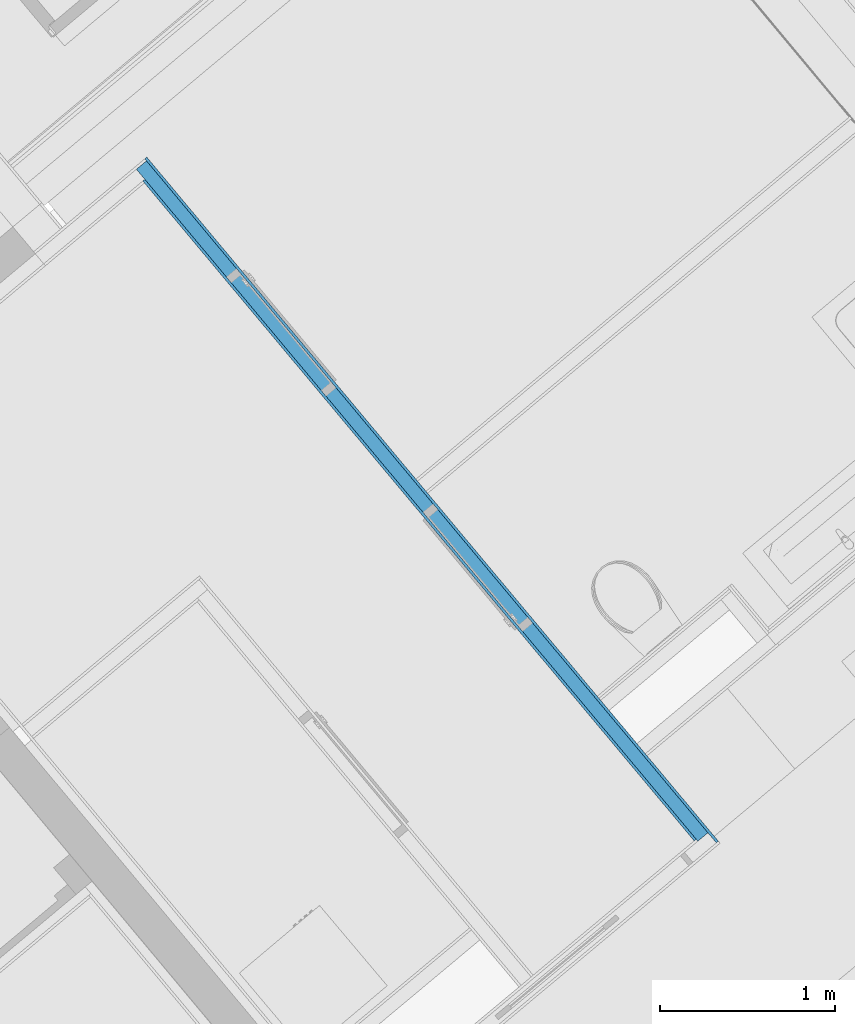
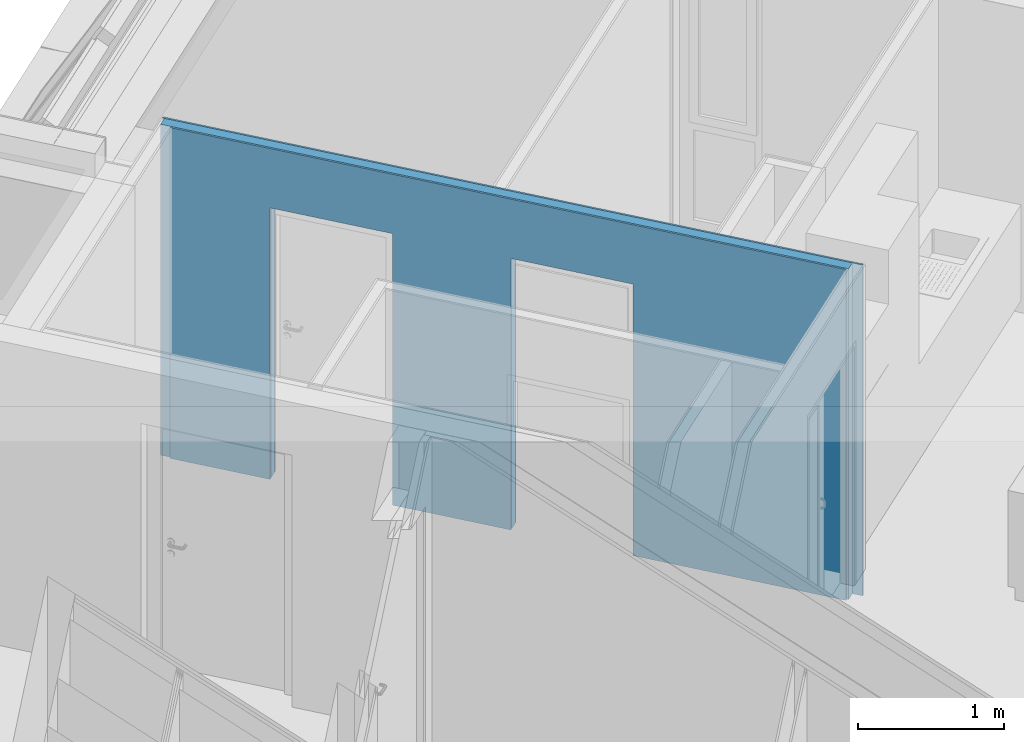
# One storey, part 14 of 61: 3 building element parts, 2 openings, 1 element without a shape of its own.
"""IFC4 building model written with IfcOpenShell, lengths in metres."""

from ifc_helpers import new_model, entity, si_unit, converted_unit, derived_unit, direction, frame, origin_with_axes, place, context, subcontext, project, spatial, polygons, material, type_object, element, aggregate, save


model = new_model("IFC4")

# Units and contexts
model_context = context("Model", 3, precision=1e-05, world=origin_with_axes(), true_north=direction((0.0, 1.0)))
body_context = subcontext(model_context, "Body", "Model", "MODEL_VIEW")
ifc_project = project(units=[si_unit("LENGTHUNIT", "METRE"), si_unit("AREAUNIT", "SQUARE_METRE"), si_unit("VOLUMEUNIT", "CUBIC_METRE"), converted_unit("PLANEANGLEUNIT", "DEGREE", entity("IfcPlaneAngleMeasure", 0.0174532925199), si_unit("PLANEANGLEUNIT", "RADIAN"), dimensions=[0, 0, 0, 0, 0, 0, 0]), converted_unit("TIMEUNIT", "Year", entity("IfcTimeMeasure", 31556926.0), si_unit("TIMEUNIT", "SECOND"), dimensions=[0, 0, 1, 0, 0, 0, 0]), si_unit("MASSUNIT", "GRAM", prefix="KILO"), si_unit("THERMODYNAMICTEMPERATUREUNIT", "DEGREE_CELSIUS"), si_unit("LUMINOUSINTENSITYUNIT", "LUMEN"), si_unit("ENERGYUNIT", "JOULE", prefix="MEGA"), derived_unit("THERMALCONDUCTANCEUNIT", [(si_unit("POWERUNIT", "WATT"), 1), (si_unit("LENGTHUNIT", "METRE"), -1), (si_unit("THERMODYNAMICTEMPERATUREUNIT", "KELVIN"), -1)]), derived_unit("SPECIFICHEATCAPACITYUNIT", [(si_unit("ENERGYUNIT", "JOULE"), 1), (si_unit("MASSUNIT", "GRAM", prefix="KILO"), -1), (si_unit("THERMODYNAMICTEMPERATUREUNIT", "KELVIN"), -1)]), derived_unit("MASSDENSITYUNIT", [(si_unit("MASSUNIT", "GRAM", prefix="KILO"), 1), (si_unit("VOLUMEUNIT", "CUBIC_METRE"), -1)])], contexts=[model_context])

# Site, building, storey
site_placement = place(None, frame((-0.00153261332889, -0.00661245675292, 0.0), z_axis=(0.0, 0.0, 1.0), x_axis=(1.0, 0.0, 0.0)))
site = spatial("IfcSite", under=ifc_project, at=site_placement, Name="Gelände", CompositionType="ELEMENT")
building_placement = place(site_placement, origin_with_axes())
building = spatial("IfcBuilding", under=site, at=building_placement, Name="Gebäude", CompositionType="ELEMENT")
storey_placement = place(building_placement, frame((0.0, 0.0, 5.7), z_axis=(0.0, 0.0, 1.0), x_axis=(1.0, 0.0, 0.0)))
storey = spatial("IfcBuildingStorey", under=building, at=storey_placement, Name="DG1", CompositionType="ELEMENT", Elevation=5.7)

# Wall, openings, building element parts
wall_type = type_object("IfcWallType", Name="IW LB 01 Leichtbautrennwand einfach 10,5 cm 105", PredefinedType="NOTDEFINED")
wall_placement = place(storey_placement, frame((6.82661068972, 22.4478297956, 0.0), z_axis=(0.0, 0.0, 1.0), x_axis=(-0.641209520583, 0.767365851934, 0.0)))
wall = element("IfcWall", 1, at=wall_placement, inside=storey, type_object=wall_type, Name="Wand-012", PredefinedType="NOTDEFINED")
opening_1_placement = place(wall_placement, frame((2.09706783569, 0.0, 0.22), z_axis=(0.0, 0.0, 1.0), x_axis=(1.0, 0.0, 0.0)))
element("IfcOpeningElement", 2, at=opening_1_placement, cuts=wall, Name="Tür-014", context=body_context, identifier="Reference", shape_type="Tessellation", body=[
    polygons([(-0.445, -2.51639218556, 2.045), (-0.445, -2.51639218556, -0.22), (0.445, -2.51639218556, -0.22), (0.445, -2.51639218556, 2.045), (-0.445, 2.62139218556, 2.045), (-0.445, 2.62139218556, -0.22), (0.445, 2.62139218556, -0.22), (0.445, 2.62139218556, 2.045)], [[[1, 2, 3, 4]], [[5, 6, 2, 1]], [[6, 7, 3, 2]], [[7, 8, 4, 3]], [[8, 5, 1, 4]], [[7, 6, 5, 8]]], closed=True),
])
opening_2_placement = place(wall_placement, frame((3.85013716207, 0.0, 0.22), z_axis=(0.0, 0.0, 1.0), x_axis=(1.0, 0.0, 0.0)))
element("IfcOpeningElement", 3, at=opening_2_placement, cuts=wall, Name="Tür-016", context=body_context, identifier="Reference", shape_type="Tessellation", body=[
    polygons([(0.445, 2.62139218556, 2.045), (0.445, 2.62139218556, -0.22), (-0.445, 2.62139218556, -0.22), (-0.445, 2.62139218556, 2.045), (0.445, -2.51639218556, 2.045), (0.445, -2.51639218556, -0.22), (-0.445, -2.51639218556, -0.22), (-0.445, -2.51639218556, 2.045)], [[[1, 2, 3, 4]], [[5, 6, 2, 1]], [[6, 7, 3, 2]], [[7, 8, 4, 3]], [[8, 5, 1, 4]], [[7, 6, 5, 8]]], closed=True),
])
ifc_material_1 = material(Name="Gipskarton")
building_element_part_1_placement = place(wall_placement, origin_with_axes())
building_element_part_1 = element("IfcBuildingElementPart", 4, at=building_element_part_1_placement, material=ifc_material_1, Name="Gipskarton", PredefinedType="NOTDEFINED", context=body_context, shape_type="Tessellation", body=[
    polygons([(4.29513716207, 0.09, 2.265), (4.29513716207, 0.09, 0.22), (4.29513712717, 0.09, 0.0), (5.02214477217, 0.09, 0.0), (5.02214477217, 0.09, 2.76), (0.10505658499, 0.09, 2.76), (0.10505658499, 0.09, 0.0), (1.6520678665, 0.09, 0.0), (1.65206783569, 0.09, 0.22), (1.65206783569, 0.09, 2.265), (2.54206783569, 0.09, 2.265), (2.54206783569, 0.09, 0.22), (2.54206783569, 0.09, 0.0), (3.40513716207, 0.09, 0.0), (3.40513716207, 0.09, 0.22), (3.40513716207, 0.09, 2.265), (4.29513716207, 0.105, 2.265), (4.29513716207, 0.105, 0.22), (4.29513712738, 0.105, 0.0), (5.02214451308, 0.105, 0.0), (5.02214451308, 0.105, 2.76), (0.105066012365, 0.105, 2.76), (0.105066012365, 0.105, 0.0), (1.65206786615, 0.105, 0.0), (1.65206783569, 0.105, 0.22), (1.65206783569, 0.105, 2.265), (2.54206783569, 0.105, 2.265), (2.54206783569, 0.105, 0.22), (2.54206783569, 0.105, 0.0), (3.40513716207, 0.105, 0.0), (3.40513716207, 0.105, 0.22), (3.40513716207, 0.105, 2.265)], [[[1, 2, 3, 4, 5, 6, 7, 8, 9, 10, 11, 12, 13, 14, 15, 16]], [[2, 1, 17, 18]], [[2, 18, 19, 3]], [[20, 4, 3, 19]], [[21, 5, 4, 20]], [[22, 6, 5, 21]], [[7, 6, 22, 23]], [[7, 23, 24, 8]], [[9, 8, 24, 25]], [[9, 25, 26, 10]], [[10, 26, 27, 11]], [[11, 27, 28, 12]], [[28, 29, 13, 12]], [[13, 29, 30, 14]], [[31, 15, 14, 30]], [[16, 15, 31, 32]], [[1, 16, 32, 17]], [[32, 31, 30, 29, 28, 27, 26, 25, 24, 23, 22, 21, 20, 19, 18, 17]]], closed=True),
])
ifc_material_2 = material(Name="Mineralwolle weich")
building_element_part_2_placement = place(wall_placement, origin_with_axes())
building_element_part_2 = element("IfcBuildingElementPart", 5, at=building_element_part_2_placement, material=ifc_material_2, Name="Mineralwolle weich", PredefinedType="NOTDEFINED", context=body_context, shape_type="Tessellation", body=[
    polygons([(4.29513716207, 0.015, 2.265), (4.29513716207, 0.015, 0.22), (4.29513712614, 0.015, 0.0), (5.09714606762, 0.015, 0.0), (5.09714606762, 0.015, 2.76), (0.0900094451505, 0.015, 2.76), (0.0900094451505, 0.015, 0.0), (1.65206786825, 0.015, 0.0), (1.65206783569, 0.015, 0.22), (1.65206783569, 0.015, 2.265), (2.54206783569, 0.015, 2.265), (2.54206783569, 0.015, 0.22), (2.54206783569, 0.015, 0.0), (3.40513716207, 0.015, 0.0), (3.40513716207, 0.015, 0.22), (3.40513716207, 0.015, 2.265), (4.29513716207, 0.09, 2.265), (4.29513716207, 0.09, 0.22), (4.29513712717, 0.09, 0.0), (5.09714477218, 0.09, 0.0), (5.09714477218, 0.09, 2.76), (0.0900565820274, 0.09, 2.76), (0.0900565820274, 0.09, 0.0), (1.6520678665, 0.09, 0.0), (1.65206783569, 0.09, 0.22), (1.65206783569, 0.09, 2.265), (2.54206783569, 0.09, 2.265), (2.54206783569, 0.09, 0.22), (2.54206783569, 0.09, 0.0), (3.40513716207, 0.09, 0.0), (3.40513716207, 0.09, 0.22), (3.40513716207, 0.09, 2.265)], [[[1, 2, 3, 4, 5, 6, 7, 8, 9, 10, 11, 12, 13, 14, 15, 16]], [[2, 1, 17, 18]], [[2, 18, 19, 3]], [[20, 4, 3, 19]], [[21, 5, 4, 20]], [[22, 6, 5, 21]], [[7, 6, 22, 23]], [[7, 23, 24, 8]], [[9, 8, 24, 25]], [[9, 25, 26, 10]], [[10, 26, 27, 11]], [[11, 27, 28, 12]], [[28, 29, 13, 12]], [[13, 29, 30, 14]], [[31, 15, 14, 30]], [[16, 15, 31, 32]], [[1, 16, 32, 17]], [[32, 31, 30, 29, 28, 27, 26, 25, 24, 23, 22, 21, 20, 19, 18, 17]]], closed=True),
])
building_element_part_3_placement = place(wall_placement, origin_with_axes())
building_element_part_3 = element("IfcBuildingElementPart", 6, at=building_element_part_3_placement, material=ifc_material_1, Name="Gipskarton", PredefinedType="NOTDEFINED", context=body_context, shape_type="Tessellation", body=[
    polygons([(4.29513716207, 1.80854442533e-10, 2.265), (4.29513716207, -6.83303724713e-09, 0.22), (4.29513712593, -6.83304079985e-09, 0.0), (5.11214632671, 0.0, 0.0), (5.11214632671, 0.0, 2.76), (0.0150000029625, 0.0, 2.76), (0.0150000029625, 0.0, 0.0), (1.6520678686, 6.71234090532e-09, 0.0), (1.65206783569, 6.71234090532e-09, 0.22), (1.65206783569, 1.80857995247e-10, 2.265), (2.54206783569, 1.80857995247e-10, 2.265), (2.54206783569, -3.01550784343e-10, 0.22), (2.54206783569, -3.01550784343e-10, 0.0), (3.40513716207, 1.80857995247e-10, 0.0), (3.40513716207, 1.80857995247e-10, 0.22), (3.40513716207, 1.80857995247e-10, 2.265), (4.29513716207, 0.015, 2.265), (4.29513716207, 0.015, 0.22), (4.29513712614, 0.015, 0.0), (5.11214606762, 0.015, 0.0), (5.11214606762, 0.015, 2.76), (0.0150094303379, 0.015, 2.76), (0.0150094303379, 0.015, 0.0), (1.65206786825, 0.015, 0.0), (1.65206783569, 0.015, 0.22), (1.65206783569, 0.015, 2.265), (2.54206783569, 0.015, 2.265), (2.54206783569, 0.015, 0.22), (2.54206783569, 0.015, 0.0), (3.40513716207, 0.015, 0.0), (3.40513716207, 0.015, 0.22), (3.40513716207, 0.015, 2.265)], [[[1, 2, 3, 4, 5, 6, 7, 8, 9, 10, 11, 12, 13, 14, 15, 16]], [[2, 1, 17, 18]], [[2, 18, 19, 3]], [[20, 4, 3, 19]], [[21, 5, 4, 20]], [[22, 6, 5, 21]], [[7, 6, 22, 23]], [[7, 23, 24, 8]], [[9, 8, 24, 25]], [[9, 25, 26, 10]], [[10, 26, 27, 11]], [[11, 27, 28, 12]], [[28, 29, 13, 12]], [[13, 29, 30, 14]], [[31, 15, 14, 30]], [[16, 15, 31, 32]], [[1, 16, 32, 17]], [[32, 31, 30, 29, 28, 27, 26, 25, 24, 23, 22, 21, 20, 19, 18, 17]]], closed=True),
])
aggregate(wall, [building_element_part_1, building_element_part_2, building_element_part_3])

save(model, "model.ifc")
